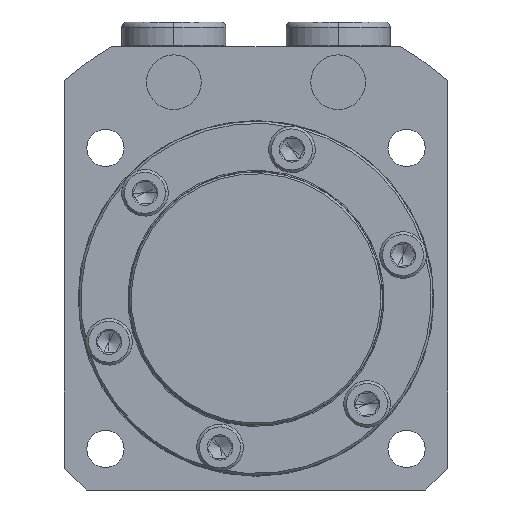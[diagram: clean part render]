
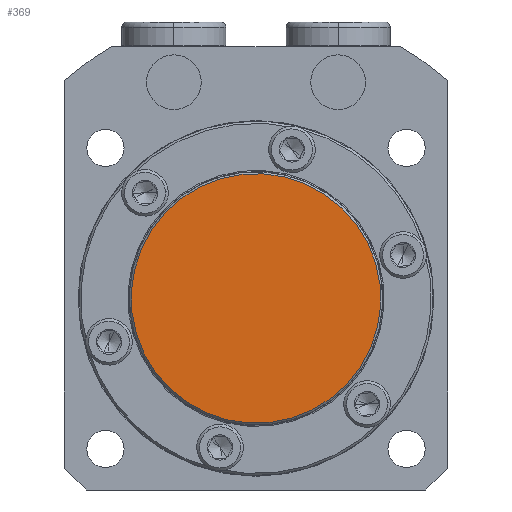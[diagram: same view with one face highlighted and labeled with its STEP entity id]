
A CAD part, front view. The second image highlights one B-rep face of the part: STEP entity #369.
In plain terms, the highlighted planar face has unit normal (0, -1, 0).
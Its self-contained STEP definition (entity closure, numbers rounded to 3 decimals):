
#45 = EDGE_CURVE ( 'NONE', #1687, #1684, #104, .T. ) ;
#98 = AXIS2_PLACEMENT_3D ( 'NONE', #1866, #1867, #1868 ) ;
#104 = CIRCLE ( 'NONE', #98, 22.8 ) ;
#369 = ADVANCED_FACE ( 'NONE', ( #3610 ), #3611, .T. ) ;
#457 = CIRCLE ( 'NONE', #464, 22.8 ) ;
#464 = AXIS2_PLACEMENT_3D ( 'NONE', #5142, #5143, #5144 ) ;
#1684 = VERTEX_POINT ( 'NONE', #2791 ) ;
#1687 = VERTEX_POINT ( 'NONE', #2794 ) ;
#1866 = CARTESIAN_POINT ( 'NONE',  ( 0., -10.5, 0. ) ) ;
#1867 = DIRECTION ( 'NONE',  ( 0., -1., 0. ) ) ;
#1868 = DIRECTION ( 'NONE',  ( 0., 0., -1. ) ) ;
#2791 = CARTESIAN_POINT ( 'NONE',  ( 0., -10.5, -22.8 ) ) ;
#2794 = CARTESIAN_POINT ( 'NONE',  ( 0., -10.5, 22.8 ) ) ;
#3586 = CARTESIAN_POINT ( 'NONE',  ( 0., -10.5, 0. ) ) ;
#3610 = FACE_OUTER_BOUND ( 'NONE', #4106, .T. ) ;
#3611 = PLANE ( 'NONE',  #5075 ) ;
#3614 = DIRECTION ( 'NONE',  ( 0., -1., 0. ) ) ;
#3615 = DIRECTION ( 'NONE',  ( 0., 0., -1. ) ) ;
#3963 = ORIENTED_EDGE ( 'NONE', *, *, #45, .T. ) ;
#3964 = ORIENTED_EDGE ( 'NONE', *, *, #4328, .T. ) ;
#4106 = EDGE_LOOP ( 'NONE', ( #3963, #3964 ) ) ;
#4328 = EDGE_CURVE ( 'NONE', #1684, #1687, #457, .T. ) ;
#5075 = AXIS2_PLACEMENT_3D ( 'NONE', #3586, #3614, #3615 ) ;
#5142 = CARTESIAN_POINT ( 'NONE',  ( 0., -10.5, 0. ) ) ;
#5143 = DIRECTION ( 'NONE',  ( 0., -1., 0. ) ) ;
#5144 = DIRECTION ( 'NONE',  ( 0., 0., -1. ) ) ;
